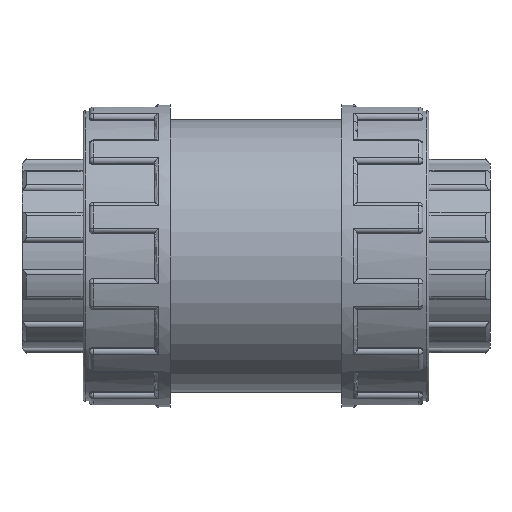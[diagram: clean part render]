
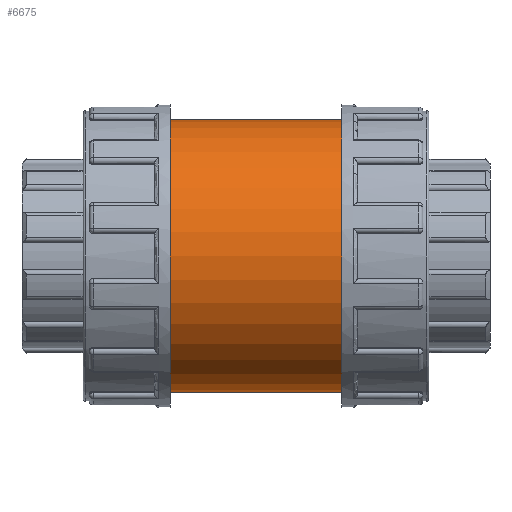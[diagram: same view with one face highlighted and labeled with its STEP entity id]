
A CAD part, front view. The second image highlights one B-rep face of the part: STEP entity #6675.
In plain terms, the highlighted cylindrical face has radius 29.7 mm (diameter 59.4 mm), a full revolution.
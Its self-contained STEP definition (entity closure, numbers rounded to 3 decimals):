
#185=FACE_BOUND('',#1099,.T.);
#186=FACE_BOUND('',#1100,.T.);
#670=FACE_OUTER_BOUND('',#1098,.T.);
#1098=EDGE_LOOP('',(#6073));
#1099=EDGE_LOOP('',(#6074));
#1100=EDGE_LOOP('',(#6075));
#1149=B_SPLINE_CURVE_WITH_KNOTS('',3,(#10735,#10736,#10737,#10738,#10739,
#10740,#10741,#10742,#10743,#10744,#10745,#10746,#10747,#10748,#10749,#10750,
#10751,#10752,#10753,#10754,#10755,#10756,#10757,#10758,#10759,#10760,#10761,
#10762,#10763,#10764,#10765,#10766,#10767,#10768),.UNSPECIFIED.,.T.,.F.,
(4,2,2,2,2,2,2,2,2,2,2,2,2,2,2,2,4),(0.,0.376,0.752,
1.128,1.504,1.88,2.256,2.632,
3.008,3.385,3.761,4.137,4.513,
4.889,5.265,5.641,6.017),
 .UNSPECIFIED.);
#2472=CIRCLE('',#7578,29.7);
#2473=CIRCLE('',#7580,29.7);
#2638=VERTEX_POINT('',#10734);
#3083=VERTEX_POINT('',#13353);
#3084=VERTEX_POINT('',#13356);
#3349=EDGE_CURVE('',#2638,#2638,#1149,.T.);
#4082=EDGE_CURVE('',#3083,#3083,#2472,.T.);
#4083=EDGE_CURVE('',#3084,#3084,#2473,.T.);
#6073=ORIENTED_EDGE('',*,*,#4082,.T.);
#6074=ORIENTED_EDGE('',*,*,#3349,.T.);
#6075=ORIENTED_EDGE('',*,*,#4083,.F.);
#6267=CYLINDRICAL_SURFACE('',#7579,29.7);
#6675=ADVANCED_FACE('',(#670,#185,#186),#6267,.T.);
#7578=AXIS2_PLACEMENT_3D('',#13354,#9749,#9750);
#7579=AXIS2_PLACEMENT_3D('',#13355,#9751,#9752);
#7580=AXIS2_PLACEMENT_3D('',#13357,#9753,#9754);
#9749=DIRECTION('center_axis',(1.,0.,0.));
#9750=DIRECTION('ref_axis',(0.,0.,-1.));
#9751=DIRECTION('center_axis',(1.,0.,0.));
#9752=DIRECTION('ref_axis',(0.,1.,0.));
#9753=DIRECTION('center_axis',(1.,0.,0.));
#9754=DIRECTION('ref_axis',(0.,0.,-1.));
#10734=CARTESIAN_POINT('',(0.,28.001,-9.9));
#10735=CARTESIAN_POINT('Ctrl Pts',(0.,28.001,
-9.9));
#10736=CARTESIAN_POINT('Ctrl Pts',(1.254,28.001,-9.9));
#10737=CARTESIAN_POINT('Ctrl Pts',(2.584,28.094,-9.647));
#10738=CARTESIAN_POINT('Ctrl Pts',(5.02,28.422,-8.634));
#10739=CARTESIAN_POINT('Ctrl Pts',(6.127,28.651,-7.874));
#10740=CARTESIAN_POINT('Ctrl Pts',(7.874,29.075,-6.127));
#10741=CARTESIAN_POINT('Ctrl Pts',(8.634,29.298,-5.02));
#10742=CARTESIAN_POINT('Ctrl Pts',(9.648,29.613,-2.584));
#10743=CARTESIAN_POINT('Ctrl Pts',(9.9,29.7,-1.253));
#10744=CARTESIAN_POINT('Ctrl Pts',(9.9,29.7,1.253));
#10745=CARTESIAN_POINT('Ctrl Pts',(9.648,29.613,2.584));
#10746=CARTESIAN_POINT('Ctrl Pts',(8.634,29.298,5.02));
#10747=CARTESIAN_POINT('Ctrl Pts',(7.874,29.075,6.127));
#10748=CARTESIAN_POINT('Ctrl Pts',(6.127,28.651,7.874));
#10749=CARTESIAN_POINT('Ctrl Pts',(5.02,28.422,8.634));
#10750=CARTESIAN_POINT('Ctrl Pts',(2.584,28.094,9.647));
#10751=CARTESIAN_POINT('Ctrl Pts',(1.254,28.001,9.9));
#10752=CARTESIAN_POINT('Ctrl Pts',(-1.254,28.001,9.9));
#10753=CARTESIAN_POINT('Ctrl Pts',(-2.584,28.094,9.647));
#10754=CARTESIAN_POINT('Ctrl Pts',(-5.02,28.422,8.634));
#10755=CARTESIAN_POINT('Ctrl Pts',(-6.127,28.651,7.874));
#10756=CARTESIAN_POINT('Ctrl Pts',(-7.874,29.075,6.127));
#10757=CARTESIAN_POINT('Ctrl Pts',(-8.634,29.298,5.02));
#10758=CARTESIAN_POINT('Ctrl Pts',(-9.648,29.613,2.584));
#10759=CARTESIAN_POINT('Ctrl Pts',(-9.9,29.7,1.253));
#10760=CARTESIAN_POINT('Ctrl Pts',(-9.9,29.7,-1.253));
#10761=CARTESIAN_POINT('Ctrl Pts',(-9.648,29.613,-2.584));
#10762=CARTESIAN_POINT('Ctrl Pts',(-8.634,29.298,-5.02));
#10763=CARTESIAN_POINT('Ctrl Pts',(-7.874,29.075,-6.127));
#10764=CARTESIAN_POINT('Ctrl Pts',(-6.127,28.651,-7.874));
#10765=CARTESIAN_POINT('Ctrl Pts',(-5.02,28.422,-8.634));
#10766=CARTESIAN_POINT('Ctrl Pts',(-2.584,28.094,-9.647));
#10767=CARTESIAN_POINT('Ctrl Pts',(-1.254,28.001,-9.9));
#10768=CARTESIAN_POINT('Ctrl Pts',(0.,28.001,
-9.9));
#13353=CARTESIAN_POINT('',(-18.7,29.7,0.));
#13354=CARTESIAN_POINT('Origin',(-18.7,0.,0.));
#13355=CARTESIAN_POINT('Origin',(0.,0.,0.));
#13356=CARTESIAN_POINT('',(18.7,29.7,0.));
#13357=CARTESIAN_POINT('Origin',(18.7,0.,0.));
